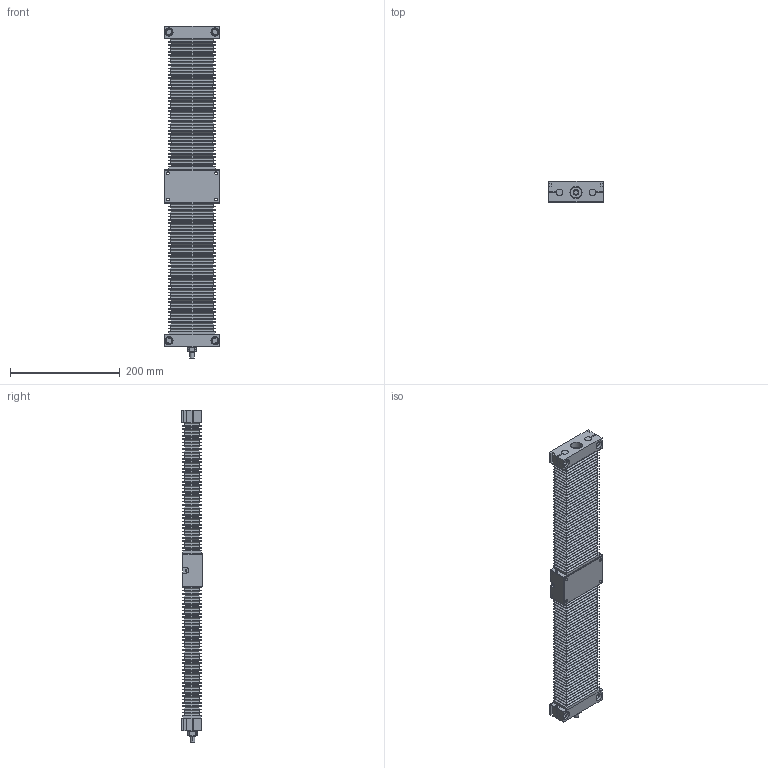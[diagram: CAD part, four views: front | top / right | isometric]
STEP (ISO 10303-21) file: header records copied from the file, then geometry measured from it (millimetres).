
FILE_DESCRIPTION (( 'STEP AP214' ), '1' );
FILE_NAME ('TKC1204B-300H0C-Ä£×é.step', '2025-10-10T09:44:15', ( '' ), ( '' ), 'SwSTEP 2.0', 'SolidWorks 2024', '' );
FILE_SCHEMA (( 'AUTOMOTIVE_DESIGN' ));
Length unit declared in the file: millimetre
Products named in the file (4): TKC12-02; TKC1204B-300H0C-模组; TKC12-300-03; TKC12-300-01
Assembly tree (4 placements, depth 2):
  TKC1204B-300H0C-模组
    TKC12-02
    TKC12-300-01
    TKC12-300-03  x2
Bounding box: 100 x 38 x 604.5 mm (x, y, z)
Volume: 1054311.8 mm3; surface area: 460248.8 mm2
Topology: 14 solids, 14 shells, 1702 faces, 3797 edges, 2171 vertices
Faces by surface type: plane 1237, cylinder 380, cone 46, torus 28, bspline 11
Entity records: 44306 total; most frequent: CARTESIAN_POINT 17174, ORIENTED_EDGE 5522, DIRECTION 5337, EDGE_CURVE 2761, VECTOR 1879, LINE 1879, AXIS2_PLACEMENT_3D 1729, VERTEX_POINT 1655
